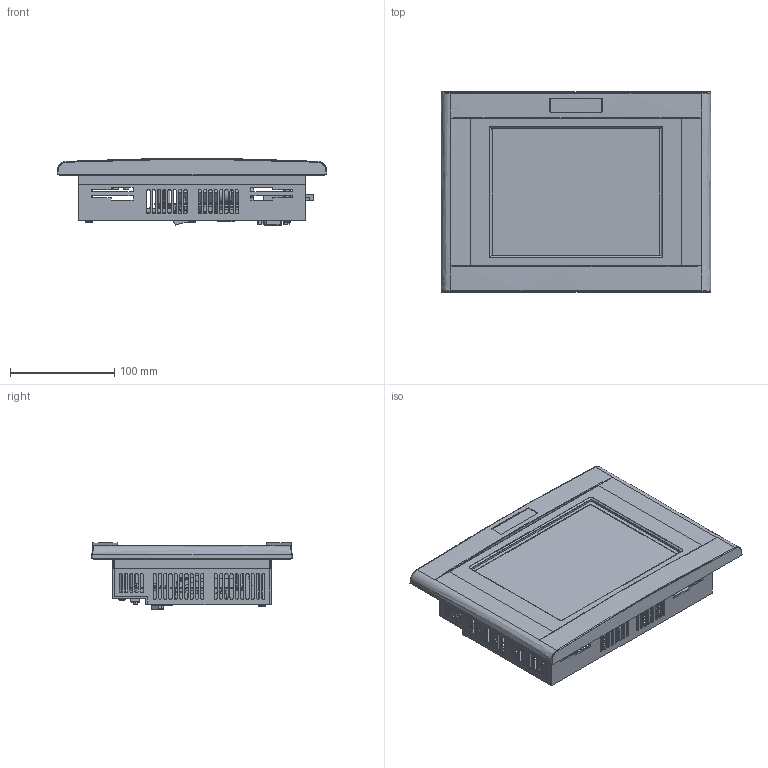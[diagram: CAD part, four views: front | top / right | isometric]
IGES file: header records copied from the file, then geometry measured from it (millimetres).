
Start section:  PTC IGES file: pa8dud.igs
Global section: file name: pa8dud.igs; native system: Pro/ENGINEER by Parametric Technology Corporation; preprocessor: 2000100; author: sebstein; organization: Unknown; date: 040415.093320; units: inch
Bounding box: 259.2 x 193.04 x 64.34 mm (x, y, z)
Surface area: 405130.3 mm2 (no closed solid volume)
Topology: 0 solids, 0 shells, 1325 faces, 8901 edges, 8901 vertices
Faces by surface type: bspline 899, revolution 426
